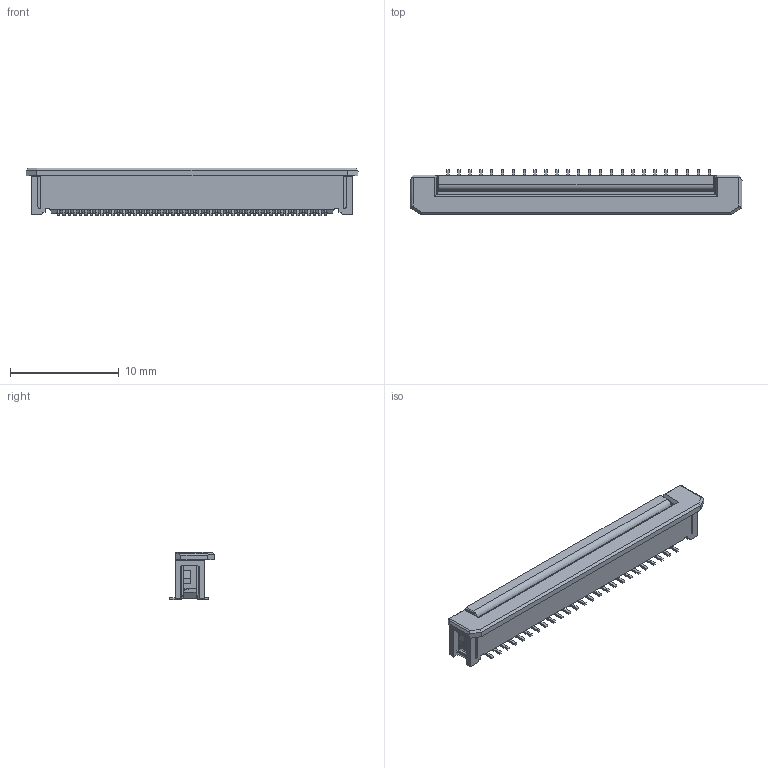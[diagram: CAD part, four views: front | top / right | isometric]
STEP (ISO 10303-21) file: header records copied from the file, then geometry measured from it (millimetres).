
FILE_DESCRIPTION (( 'STEP AP214' ), '1' );
FILE_NAME ('006274050000.STEP', '2016-01-05T01:41:38', ( '' ), ( '' ), 'SwSTEP 2.0', 'SolidWorks 2014', '' );
FILE_SCHEMA (( 'AUTOMOTIVE_DESIGN' ));
Length unit declared in the file: millimetre
Products named in the file (1): 006274050000
Bounding box: 30.5 x 4.1 x 4.4 mm (x, y, z)
Volume: 288.5 mm3; surface area: 871.5 mm2
Topology: 51 solids, 51 shells, 1196 faces, 3282 edges, 2222 vertices
Faces by surface type: plane 881, cylinder 311, bspline 2, cone 2
Entity records: 40810 total; most frequent: CARTESIAN_POINT 10944, ORIENTED_EDGE 6560, DIRECTION 5279, EDGE_CURVE 3280, VERTEX_POINT 2222, VECTOR 2071, LINE 2071, AXIS2_PLACEMENT_3D 1604
